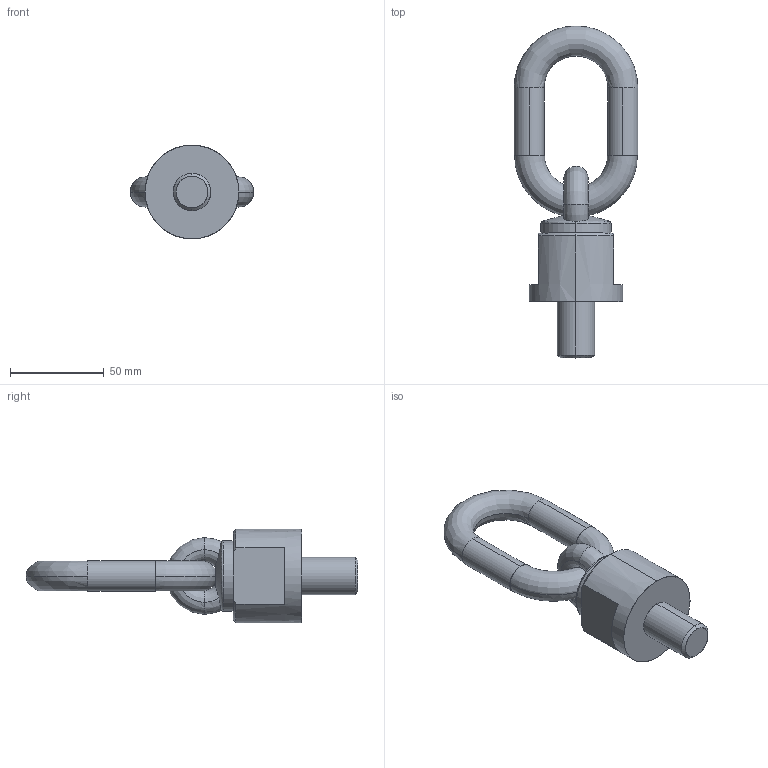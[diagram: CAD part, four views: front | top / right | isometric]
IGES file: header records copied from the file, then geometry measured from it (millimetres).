
Start section: START RECORD GO HERE.
Global section: file name: C8000202030.igs; native system: DASSAULT SYSTEMES CATIA V5 R20 - www.3ds.com; preprocessor: CATIA Version 5 Release 20 ; author: Utente; organization: NB04-ASUS; date: 20200412.161618; units: millimetre
Bounding box: 66 x 177 x 50 mm (x, y, z)
Surface area: 25090.5 mm2 (no closed solid volume)
Topology: 0 solids, 0 shells, 45 faces, 246 edges, 246 vertices
Faces by surface type: revolution 33, extrusion 12
